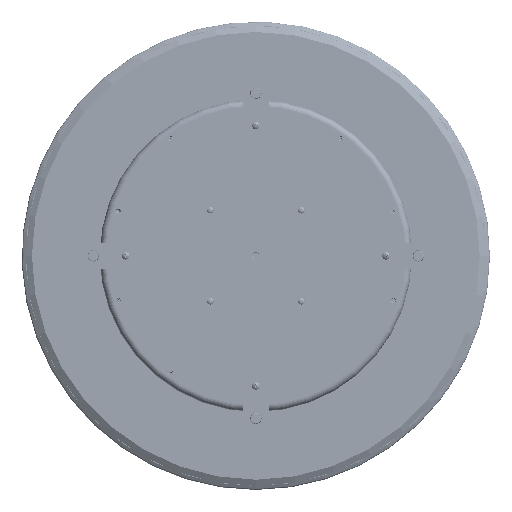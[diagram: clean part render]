
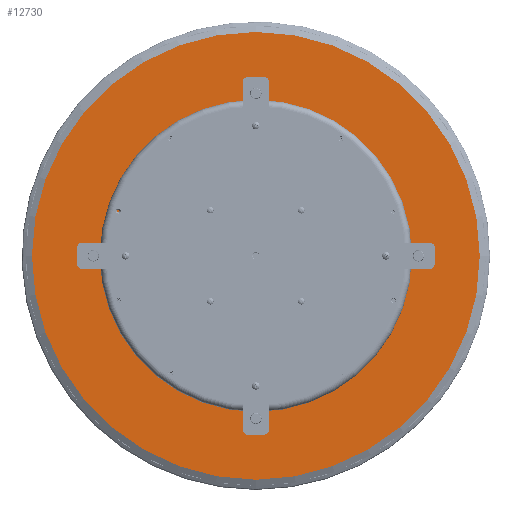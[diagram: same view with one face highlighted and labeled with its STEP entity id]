
A CAD part, front view. The second image highlights one B-rep face of the part: STEP entity #12730.
In plain terms, the highlighted planar face has unit normal (0, -1, 0).
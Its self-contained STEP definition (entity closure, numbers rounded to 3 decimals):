
#1583=CIRCLE('',#14776,17.213);
#2564=FACE_OUTER_BOUND('',#3432,.T.);
#3432=EDGE_LOOP('',(#10747));
#6099=VERTEX_POINT('',#30815);
#7708=EDGE_CURVE('',#6099,#6099,#1583,.T.);
#10747=ORIENTED_EDGE('',*,*,#7708,.T.);
#12115=PLANE('',#14779);
#12730=ADVANCED_FACE('',(#2564),#12115,.F.);
#14776=AXIS2_PLACEMENT_3D('',#30816,#17794,#17795);
#14779=AXIS2_PLACEMENT_3D('',#30821,#17801,#17802);
#17794=DIRECTION('center_axis',(0.,-1.,0.));
#17795=DIRECTION('ref_axis',(0.,0.,1.));
#17801=DIRECTION('center_axis',(0.,1.,0.));
#17802=DIRECTION('ref_axis',(0.,0.,1.));
#30815=CARTESIAN_POINT('',(0.,0.,-17.213));
#30816=CARTESIAN_POINT('Origin',(0.,0.,0.));
#30821=CARTESIAN_POINT('Origin',(0.,0.,0.));
